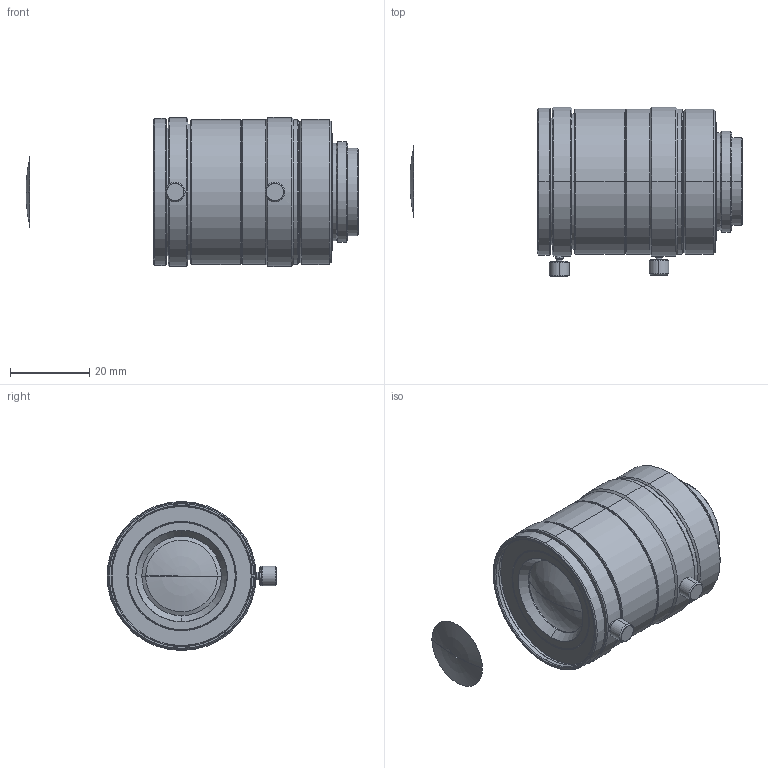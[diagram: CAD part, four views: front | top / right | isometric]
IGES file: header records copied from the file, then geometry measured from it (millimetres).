
Start section: SolidWorks IGES file using analytic representation for surfaces
Global section: file name: \\192.168.200.11\Development\4 ŠJ”­ŒŸ“¢\2021”N“x\D-2100235_VS-HVA2524\10.3DŠOŠÏƒ‚ƒfƒ‹\VS-HVA2524.IGS; native system: SolidWorks 2021; preprocessor: SolidWorks 2021; author: tsuzuki_vst; date: 210705.170012; units: millimetre
Bounding box: 83.54 x 42.75 x 37.5 mm (x, y, z)
Surface area: 9852.9 mm2 (no closed solid volume)
Topology: 0 solids, 0 shells, 127 faces, 2388 edges, 2386 vertices
Faces by surface type: revolution 108, bspline 19
